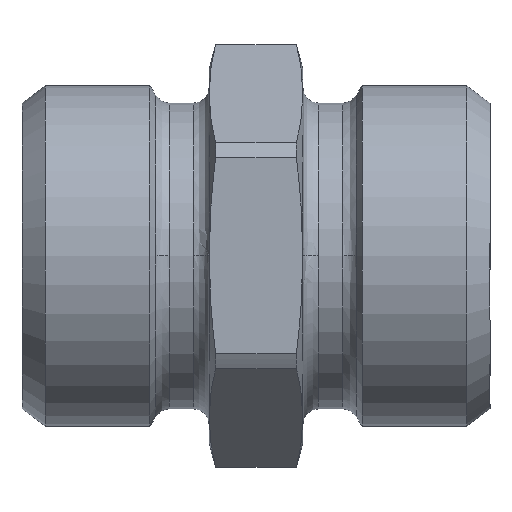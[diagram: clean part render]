
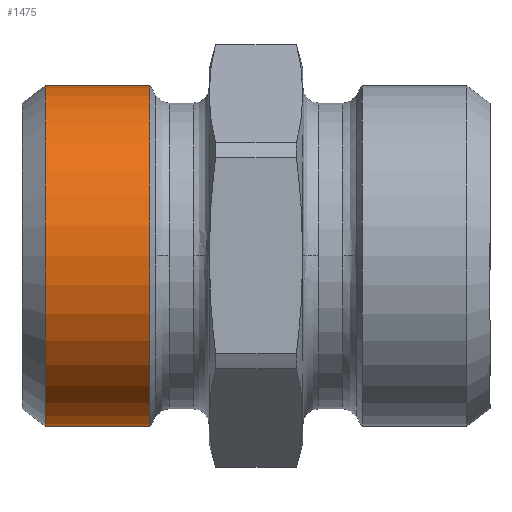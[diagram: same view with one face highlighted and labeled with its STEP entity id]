
A CAD part, top view. The second image highlights one B-rep face of the part: STEP entity #1475.
In plain terms, the highlighted cylindrical face has radius 10.925 mm (diameter 21.85 mm), a partial arc.
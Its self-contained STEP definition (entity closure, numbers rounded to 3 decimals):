
#859=CARTESIAN_POINT('',(0.,-10.925,13.507));
#860=VERTEX_POINT('',#859);
#861=CARTESIAN_POINT('',(0.,-10.925,6.8));
#862=VERTEX_POINT('',#861);
#863=CARTESIAN_POINT('',(0.,-10.925,13.507));
#864=DIRECTION('',(0.0,0.0,-1.0));
#865=VECTOR('',#864,6.708);
#866=LINE('',#863,#865);
#867=EDGE_CURVE('',#860,#862,#866,.T.);
#869=CARTESIAN_POINT('',(0.,10.925,13.507));
#870=VERTEX_POINT('',#869);
#878=CARTESIAN_POINT('',(0.,10.925,6.8));
#879=VERTEX_POINT('',#878);
#880=CARTESIAN_POINT('',(0.,10.925,6.8));
#881=DIRECTION('',(0.0,0.0,1.0));
#882=VECTOR('',#881,6.708);
#883=LINE('',#880,#882);
#884=EDGE_CURVE('',#879,#870,#883,.T.);
#1351=CARTESIAN_POINT('',(0.,0.,6.8));
#1352=DIRECTION('',(0.0,0.0,-1.0));
#1353=DIRECTION('',(0.0,-1.0,0.0));
#1354=AXIS2_PLACEMENT_3D('',#1351,#1352,#1353);
#1355=CIRCLE('',#1354,10.925);
#1356=EDGE_CURVE('',#879,#862,#1355,.T.);
#1452=CARTESIAN_POINT('',(0.,0.,13.507));
#1453=DIRECTION('',(0.0,0.0,-1.0));
#1454=DIRECTION('',(0.0,-1.0,0.0));
#1455=AXIS2_PLACEMENT_3D('',#1452,#1453,#1454);
#1456=CIRCLE('',#1455,10.925);
#1457=EDGE_CURVE('',#870,#860,#1456,.T.);
#1464=CARTESIAN_POINT('',(0.,0.,10.153));
#1465=DIRECTION('',(0.,0.,-1.0));
#1466=DIRECTION('',(0.0,-1.0,0.0));
#1467=AXIS2_PLACEMENT_3D('',#1464,#1465,#1466);
#1468=CYLINDRICAL_SURFACE('',#1467,10.925);
#1469=ORIENTED_EDGE('',*,*,#867,.T.);
#1470=ORIENTED_EDGE('',*,*,#1356,.F.);
#1471=ORIENTED_EDGE('',*,*,#884,.T.);
#1472=ORIENTED_EDGE('',*,*,#1457,.T.);
#1473=EDGE_LOOP('',(#1469,#1470,#1471,#1472));
#1474=FACE_OUTER_BOUND('',#1473,.T.);
#1475=ADVANCED_FACE('',(#1474),#1468,.T.);
